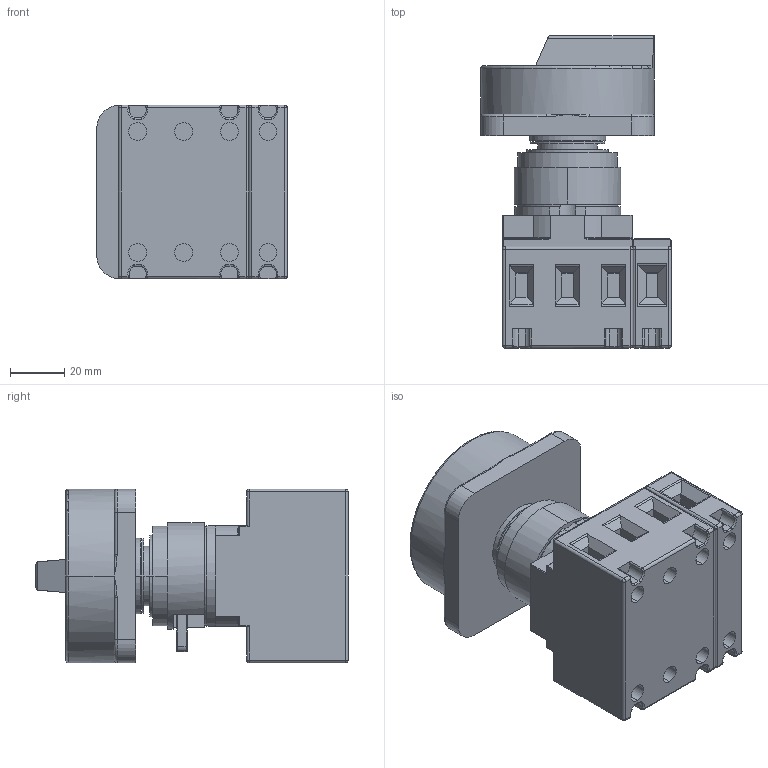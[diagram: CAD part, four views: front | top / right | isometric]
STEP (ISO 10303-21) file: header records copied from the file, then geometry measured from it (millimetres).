
FILE_DESCRIPTION (( 'STEP AP203' ), '1' );
FILE_NAME ('LTS20_25_32_40 ZHN4 A4.STEP', '2014-04-23T09:58:12', ( '' ), ( '' ), 'SwSTEP 2.0', 'SolidWorks 2014', '' );
FILE_SCHEMA (( 'CONFIG_CONTROL_DESIGN' ));
Length unit declared in the file: millimetre
Products named in the file (9): LTS20_40 E A4; Zwischenring; Achse LTSZ; Kuppelstück; Riegel; F黨rungsh黮se vormontiert; SV4_64x64; LTS20_25_32_40 ZHN4 A4; Schalterkörper LTS20_40 E
Assembly tree (8 placements, depth 2):
  LTS20_25_32_40 ZHN4 A4
    Schalterkörper LTS20_40 E
    LTS20_40 E A4
    Zwischenring
    Achse LTSZ
    Kuppelstück
    Riegel
    F黨rungsh黮se vormontiert
    SV4_64x64
Bounding box: 70.2 x 115 x 64 mm (x, y, z)
Volume: 256977.4 mm3; surface area: 64152.2 mm2
Topology: 8 solids, 8 shells, 495 faces, 1206 edges, 730 vertices
Faces by surface type: cylinder 217, plane 188, torus 39, bspline 30, sphere 21
Entity records: 16328 total; most frequent: CARTESIAN_POINT 3973, DIRECTION 2449, ORIENTED_EDGE 2354, EDGE_CURVE 1177, AXIS2_PLACEMENT_3D 920, VERTEX_POINT 730, LINE 609, VECTOR 609
